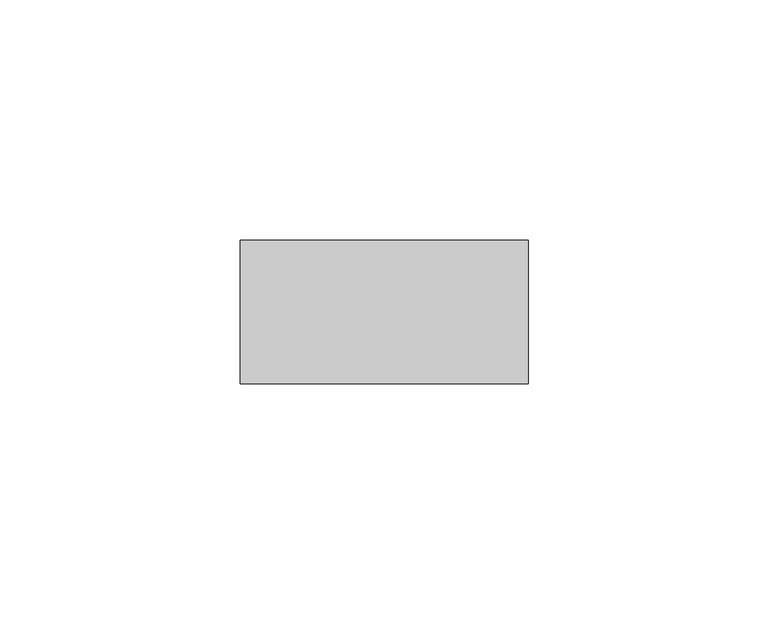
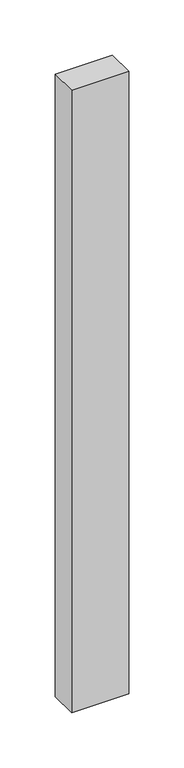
"""IFC4 building model written with IfcOpenShell, lengths in millimetres: member geometry, Прямоугольный импост : Квадрат 30 мм."""

from ifc_helpers import new_model, si_unit, frame, origin, place, context, project, spatial, polyline, outline, extrude, source, transform, mapped, element, save


def member_d5c16c3e(model_context):
    return source(origin(), model_context, "Body", "SweptSolid", [
        extrude(outline(polyline([(30.0, 15.0), (30.0, -15.0), (-30.0, -15.0), (-30.0, 15.0), (30.0, 15.0)])), frame((0.0, 0.0, -690.0), z_axis=(0.0, 0.0, 1.0), x_axis=(1.0, 0.0, 0.0)), (0.0, 0.0, 1.0), 690.0),
    ])


if __name__ == "__main__":
    model = new_model("IFC4")
    model_context = context("Model", 3, world=origin())
    ifc_project = project(units=[si_unit("LENGTHUNIT", "METRE", prefix="MILLI")], contexts=[model_context])
    site = spatial("IfcSite", under=ifc_project)
    building = spatial("IfcBuilding", under=site)
    placement = place(None, origin())
    member_shape = member_d5c16c3e(model_context)
    element("IfcMember", 1, ObjectType="Прямоугольный импост : Квадрат 30 мм", at=placement, inside=building, context=model_context, shape_type="MappedRepresentation", body=[
        mapped(member_shape, transform((0.0, 0.0, 0.0), x_axis=(1.0, 0.0, 0.0), y_axis=(0.0, 1.0, 0.0), z_axis=(0.0, 0.0, 1.0))),
    ])
    save(model, "model.ifc")
